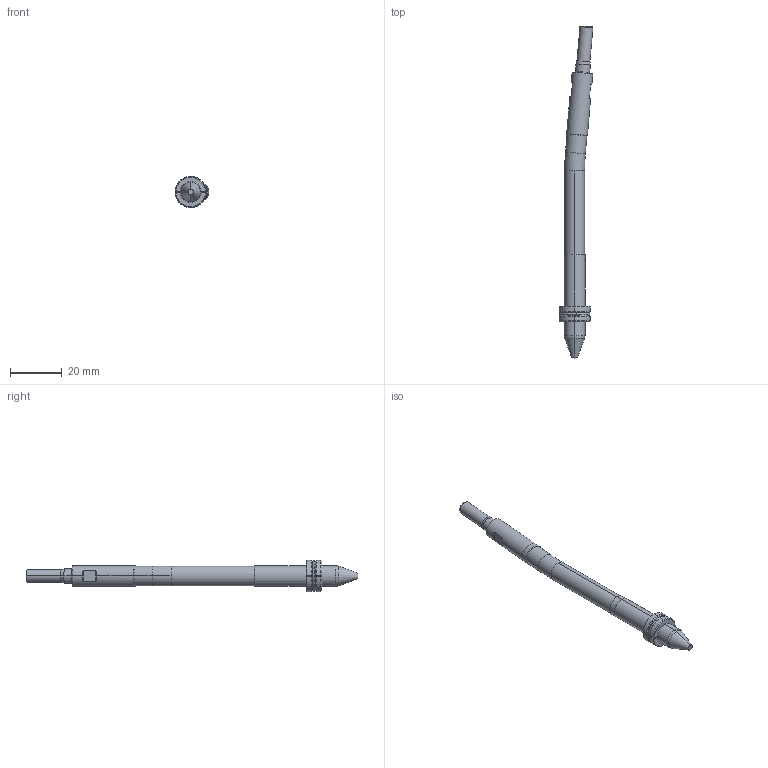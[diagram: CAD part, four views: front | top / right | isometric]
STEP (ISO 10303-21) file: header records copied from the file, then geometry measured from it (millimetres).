
FILE_DESCRIPTION (( 'STEP AP214' ), '1' );
FILE_NAME ('WP080030-INJ 5°.STEP', '2021-03-19T15:19:42', ( '' ), ( '' ), 'SwSTEP 2.0', 'SolidWorks 2019', '' );
FILE_SCHEMA (( 'AUTOMOTIVE_DESIGN' ));
Length unit declared in the file: millimetre
Products named in the file (6): Web-WP08-2; Web-WP08-1; WP080030-INJ 5°; Web-WP08-F_WP08-F-OFF 5ø; Web-WP08-6; Web-WP08-7
Assembly tree (5 placements, depth 2):
  WP080030-INJ 5°
    Web-WP08-1
    Web-WP08-F_WP08-F-OFF 5ø
    Web-WP08-2
    Web-WP08-6
    Web-WP08-7
Bounding box: 13.03 x 128 x 12 mm (x, y, z)
Volume: 5841.5 mm3; surface area: 4095.4 mm2
Topology: 6 solids, 6 shells, 121 faces, 280 edges, 174 vertices
Faces by surface type: cylinder 36, plane 29, cone 28, torus 28
Entity records: 3977 total; most frequent: CARTESIAN_POINT 767, DIRECTION 652, ORIENTED_EDGE 560, AXIS2_PLACEMENT_3D 283, EDGE_CURVE 280, VERTEX_POINT 174, CIRCLE 154, EDGE_LOOP 126
